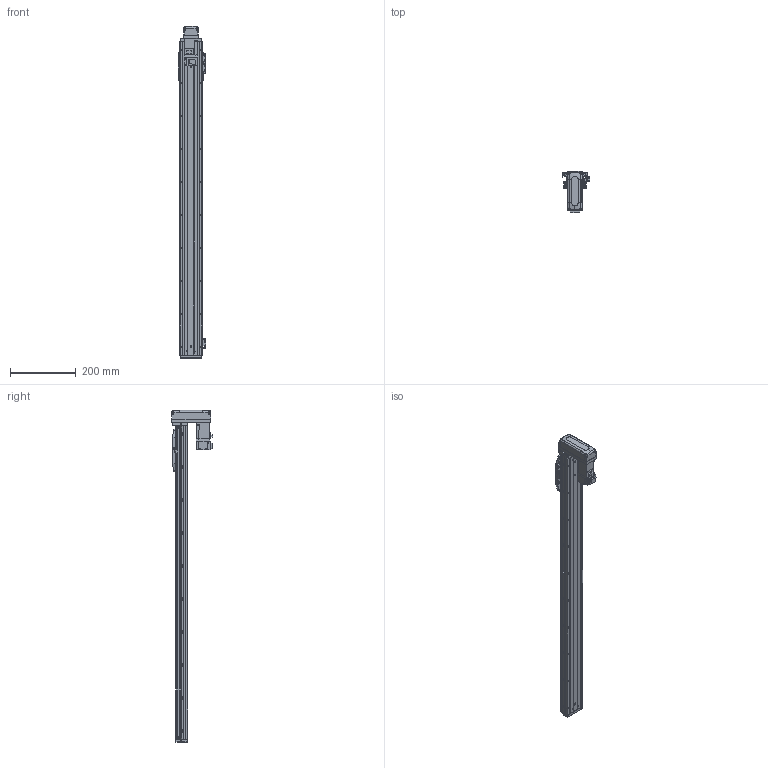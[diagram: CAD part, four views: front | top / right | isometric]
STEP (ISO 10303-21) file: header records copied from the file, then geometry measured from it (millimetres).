
FILE_DESCRIPTION (( 'STEP AP203' ), '1' );
FILE_NAME ('CTHA60-800-BM-M10-C4L.step', '2022-03-19T06:18:59', ( '微软用户' ), ( '微软中国' ), 'SwSTEP 2.0', 'SolidWorks 2020', '' );
FILE_SCHEMA (( 'CONFIG_CONTROL_DESIGN' ));
Length unit declared in the file: millimetre
Products named in the file (18): GB¨uT 70.2-M3¡Á6_M3¡Á6; GBT 70.3-M3℅6; CTHA60-800-BM-M10-C4L; EE_SX911P_R; CTHA60-016; CTHA60-017; HG-KR13（三菱）; CTHA60-021; CTHA60-002; CTHA60-001_950; GBT 70.1-M4×16; CTHA60-031; CTHA60-004; GBT77-2000 M3×3; CTHA60-006-1; CTHA60-005; GBT 70.1-M3℅6; CTHA60-033
Assembly tree (54 placements, depth 2):
  CTHA60-800-BM-M10-C4L
    CTHA60-001_950
    CTHA60-004
    CTHA60-005
    GB¨uT 70.2-M3¡Á6_M3¡Á6  x10
    EE_SX911P_R  x3
    CTHA60-017  x3
    CTHA60-021  x2
    GBT 70.1-M4×16  x10
    GBT77-2000 M3×3  x6
    GBT 70.1-M3℅6  x6
    GBT 70.3-M3℅6  x4
    CTHA60-016  x2
    HG-KR13（三菱）
    CTHA60-002
    CTHA60-031
    CTHA60-006-1
    CTHA60-033
Bounding box: 83.12 x 125.3 x 1007 mm (x, y, z)
Volume: 1683073.4 mm3; surface area: 496404.1 mm2
Topology: 56 solids, 56 shells, 2574 faces, 6205 edges, 3829 vertices
Faces by surface type: plane 1485, cylinder 595, cone 346, torus 92, bspline 32, sphere 24
Entity records: 46949 total; most frequent: CARTESIAN_POINT 9034, DIRECTION 7276, ORIENTED_EDGE 7218, EDGE_CURVE 3609, VECTOR 2568, LINE 2568, AXIS2_PLACEMENT_3D 2354, VERTEX_POINT 2288
